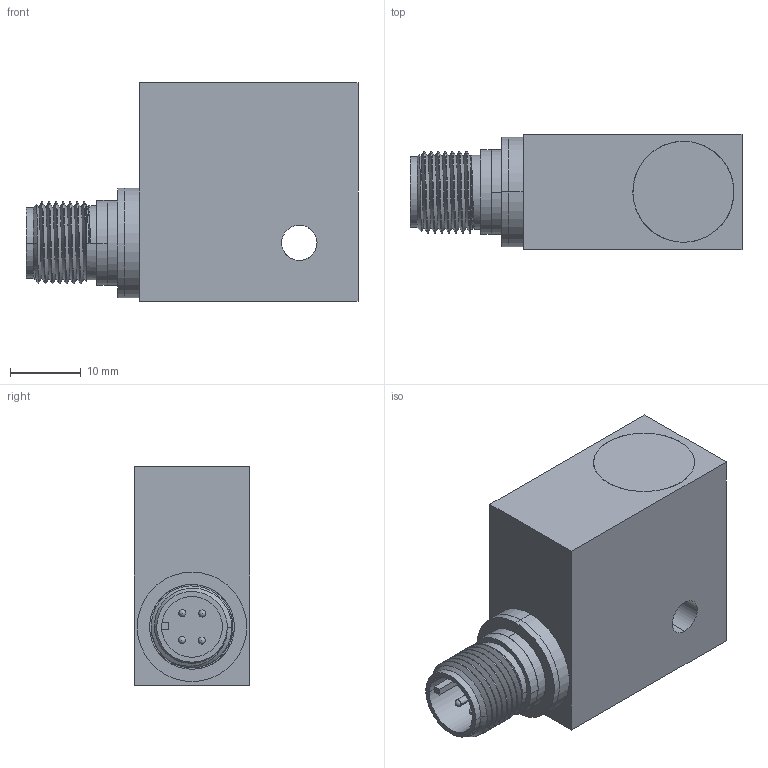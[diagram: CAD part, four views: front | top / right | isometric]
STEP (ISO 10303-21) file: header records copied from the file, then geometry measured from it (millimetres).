
FILE_DESCRIPTION (( 'STEP AP203' ), '1' );
FILE_NAME ('×°ÅäÌå1.STEP', '2024-08-06T15:23:49', ( '' ), ( '' ), 'SwSTEP 2.0', 'SolidWorks 2018', '' );
FILE_SCHEMA (( 'CONFIG_CONTROL_DESIGN' ));
Length unit declared in the file: millimetre
Products named in the file (5): 蚾饜极1; 錨璃3; 錨璃1; 蛌諉脣釱; 裔啣
Assembly tree (5 placements, depth 2):
  蚾饜极1
    錨璃1
    裔啣  x2
    蛌諉脣釱
    錨璃3
Bounding box: 47 x 16.3 x 31 mm (x, y, z)
Volume: 15260.5 mm3; surface area: 7293.6 mm2
Topology: 6 solids, 6 shells, 113 faces, 270 edges, 177 vertices
Faces by surface type: cylinder 66, plane 33, cone 8, sphere 4, bspline 2
Entity records: 4772 total; most frequent: CARTESIAN_POINT 1749, DIRECTION 542, ORIENTED_EDGE 504, EDGE_CURVE 252, AXIS2_PLACEMENT_3D 222, VERTEX_POINT 165, EDGE_LOOP 131, FACE_OUTER_BOUND 109
